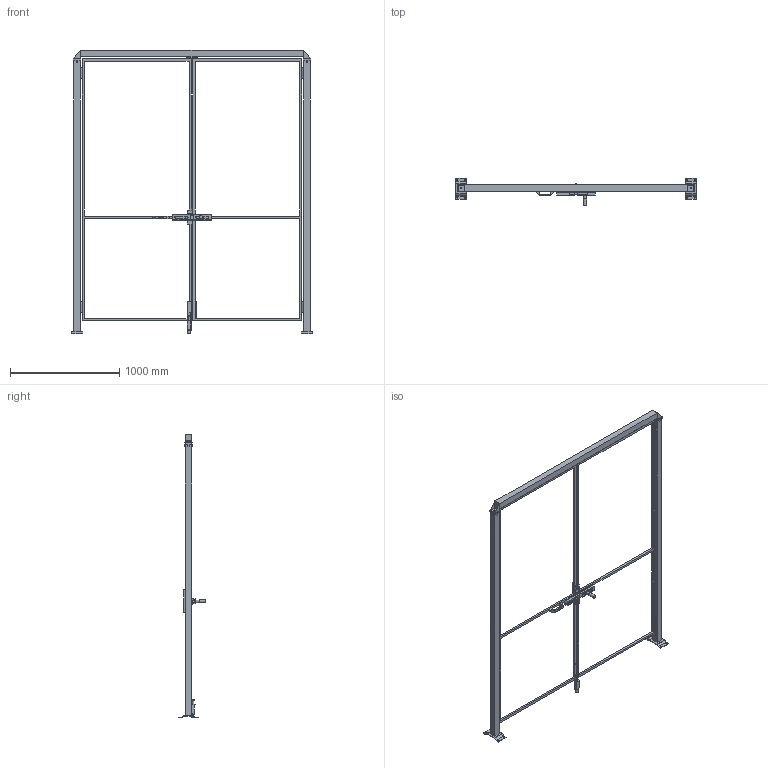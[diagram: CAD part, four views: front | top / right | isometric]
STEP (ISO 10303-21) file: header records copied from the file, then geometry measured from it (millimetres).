
FILE_DESCRIPTION(/* description */ (''),/* implementation_level */ '2;1');
FILE_NAME(/* name */ 'C:\SafeGuarding\ELABORATI\VZOR§DVOUKŘÍDLÉ_2025-02-03-08-20-16.stp',/* time_stamp */ '2025-02-03T08:20:17+01:00',/* author */ ('admin'),/* organization */ (''),/* preprocessor_version */ 'ST-DEVELOPER v18.1',/* originating_system */ 'AutoCAD Mechanical',/* authorisation */ '');
FILE_SCHEMA (('AUTOMOTIVE_DESIGN { 1 0 10303 214 3 1 1 }'));
Length unit declared in the file: millimetre
Products named in the file (5): Product; *U4; DATI_PORTA; P_VFMA.ME60SDU.2520; VFPA.REPE2010002400
Assembly tree (6 placements, depth 2):
  Product
    P_VFMA.ME60SDU.2520  x2
    *U4
    DATI_PORTA
    VFPA.REPE2010002400  x2
Bounding box: 2205 x 255.79 x 2600.5 mm (x, y, z)
Volume: 32739034.6 mm3; surface area: 3506967.4 mm2
Topology: 27 solids, 38 shells, 396 faces, 1352 edges, 1292 vertices
Faces by surface type: plane 352, cylinder 42, cone 2
Full cylindrical faces by diameter (mm): 11 x25, 12 x1, 14 x2, 24 x1, 30 x1
Entity records: 12048 total; most frequent: CARTESIAN_POINT 2564, DIRECTION 1827, ORIENTED_EDGE 1700, EDGE_CURVE 899, LINE 841, VECTOR 841, VERTEX_POINT 635, AXIS2_PLACEMENT_3D 493
